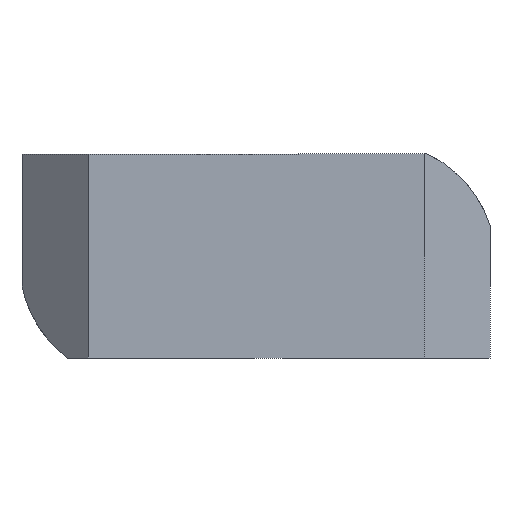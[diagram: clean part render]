
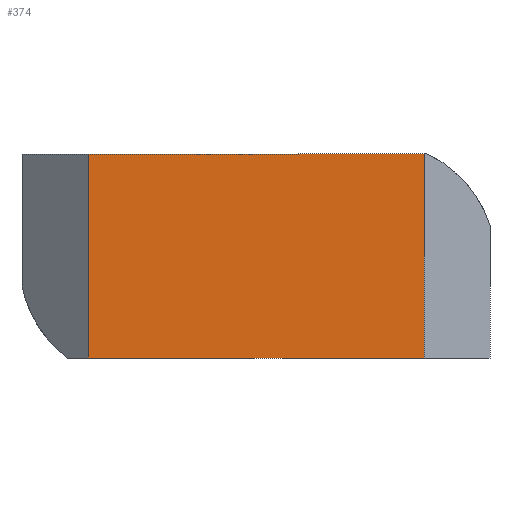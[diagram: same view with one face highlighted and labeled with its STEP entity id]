
A CAD part, front view. The second image highlights one B-rep face of the part: STEP entity #374.
In plain terms, the highlighted planar face has unit normal (0, -1, 0).
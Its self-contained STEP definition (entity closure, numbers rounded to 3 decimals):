
#182=CARTESIAN_POINT('',(-14.476,-13.207,8.75));
#183=VERTEX_POINT('',#182);
#190=CARTESIAN_POINT('',(-0.476,-13.207,8.75));
#191=VERTEX_POINT('',#190);
#192=CARTESIAN_POINT('',(-0.476,-13.207,8.75));
#193=DIRECTION('',(-1.0,0.0,0.0));
#194=VECTOR('',#193,14.0);
#195=LINE('',#192,#194);
#196=EDGE_CURVE('',#191,#183,#195,.T.);
#315=CARTESIAN_POINT('',(-0.476,-13.207,0.25));
#316=VERTEX_POINT('',#315);
#323=CARTESIAN_POINT('',(-14.476,-13.207,0.25));
#324=VERTEX_POINT('',#323);
#325=CARTESIAN_POINT('',(-14.476,-13.207,0.25));
#326=DIRECTION('',(1.0,0.0,0.0));
#327=VECTOR('',#326,14.0);
#328=LINE('',#325,#327);
#329=EDGE_CURVE('',#324,#316,#328,.T.);
#347=CARTESIAN_POINT('',(-14.476,-13.207,0.25));
#348=DIRECTION('',(0.0,0.0,1.0));
#349=VECTOR('',#348,8.5);
#350=LINE('',#347,#349);
#351=EDGE_CURVE('',#324,#183,#350,.T.);
#358=CARTESIAN_POINT('',(-0.476,-13.207,0.0));
#359=DIRECTION('',(0.0,-1.0,0.0));
#360=DIRECTION('',(0.0,0.0,-1.0));
#361=AXIS2_PLACEMENT_3D('',#358,#359,#360);
#362=PLANE('',#361);
#363=ORIENTED_EDGE('',*,*,#329,.T.);
#364=CARTESIAN_POINT('',(-0.476,-13.207,0.25));
#365=DIRECTION('',(0.0,0.0,1.0));
#366=VECTOR('',#365,8.5);
#367=LINE('',#364,#366);
#368=EDGE_CURVE('',#316,#191,#367,.T.);
#369=ORIENTED_EDGE('',*,*,#368,.T.);
#370=ORIENTED_EDGE('',*,*,#196,.T.);
#371=ORIENTED_EDGE('',*,*,#351,.F.);
#372=EDGE_LOOP('',(#363,#369,#370,#371));
#373=FACE_OUTER_BOUND('',#372,.T.);
#374=ADVANCED_FACE('',(#373),#362,.T.);
